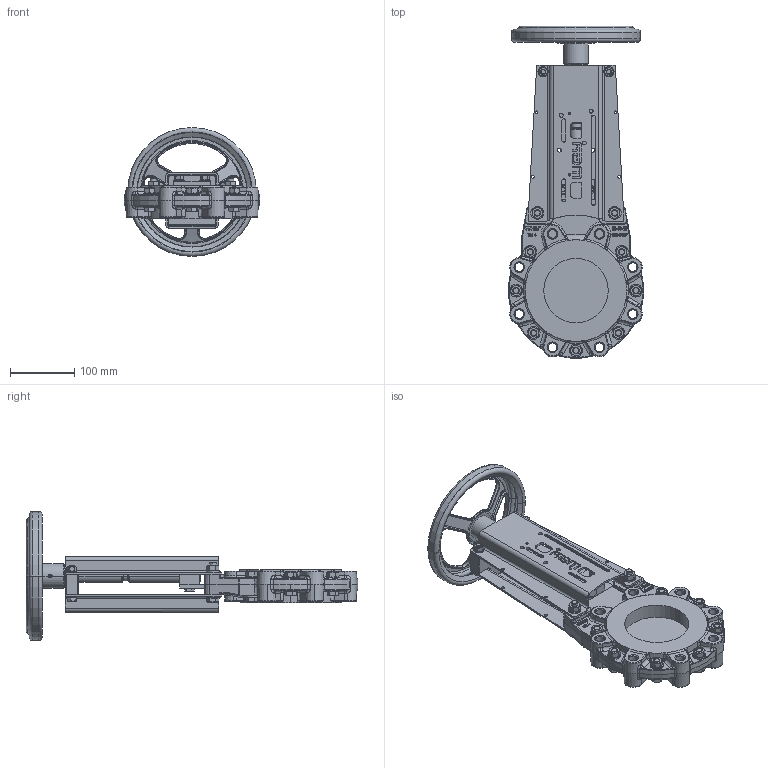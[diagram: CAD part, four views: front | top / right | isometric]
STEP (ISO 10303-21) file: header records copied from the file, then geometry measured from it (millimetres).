
FILE_DESCRIPTION (( 'STEP AP203' ), '1' );
FILE_NAME ('VMA DN 100 DH200.step', '2013-09-30T09:13:45', ( 'admin' ), ( '' ), 'SwSTEP 2.0', 'SolidWorks 2013', '' );
FILE_SCHEMA (( 'CONFIG_CONTROL_DESIGN' ));
Length unit declared in the file: millimetre
Products named in the file (1): VMA DN 100 DH200
Bounding box: 210 x 515.1 x 200 mm (x, y, z)
Volume: 1925047.9 mm3; surface area: 507504.8 mm2
Topology: 51 solids, 52 shells, 2798 faces, 6861 edges, 4178 vertices
Faces by surface type: plane 1038, cylinder 704, bspline 492, cone 391, torus 173
Entity records: 106437 total; most frequent: CARTESIAN_POINT 43881, ORIENTED_EDGE 13574, DIRECTION 12128, EDGE_CURVE 6787, AXIS2_PLACEMENT_3D 4619, VERTEX_POINT 4178, EDGE_LOOP 3095, LINE 2890
